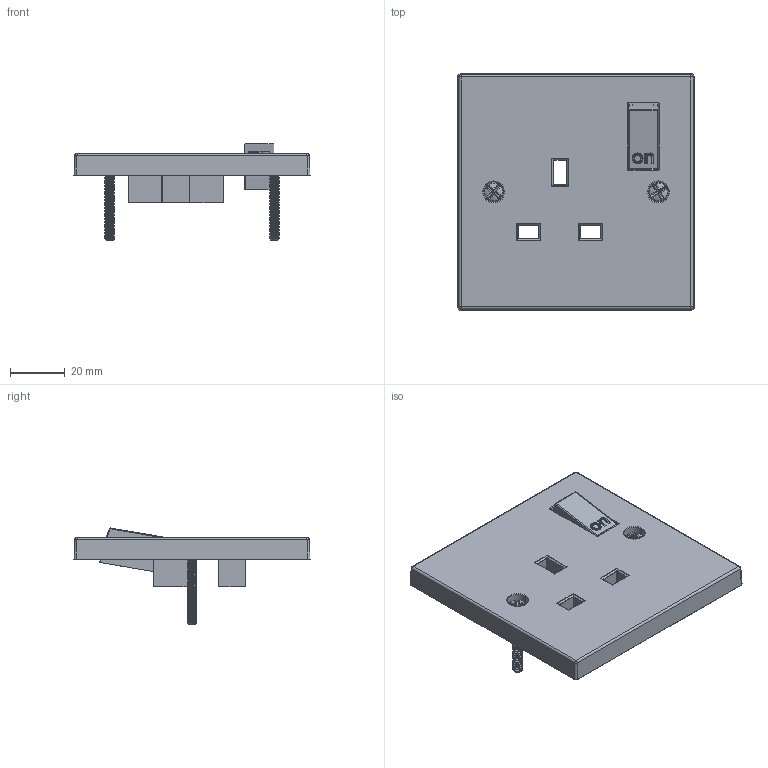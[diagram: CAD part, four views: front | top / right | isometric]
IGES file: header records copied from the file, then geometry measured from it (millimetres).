
Start section: SolidWorks IGES file using analytic representation for surfaces
Global section: file name: C:\Users\ACD\Desktop\UK 13AMP WALL PLUG\Plug Socket UK 13 IGES.IGS; native system: SolidWorks 2012; preprocessor: SolidWorks 2012; author: ACD; date: 130930.204134; units: millimetre
Bounding box: 85.99 x 85.99 x 34.98 mm (x, y, z)
Volume: 31849.6 mm3; surface area: 26026.3 mm2
Topology: 4 solids, 4 shells, 730 faces, 1807 edges, 1058 vertices
Faces by surface type: revolution 440, plane 171, bspline 119
